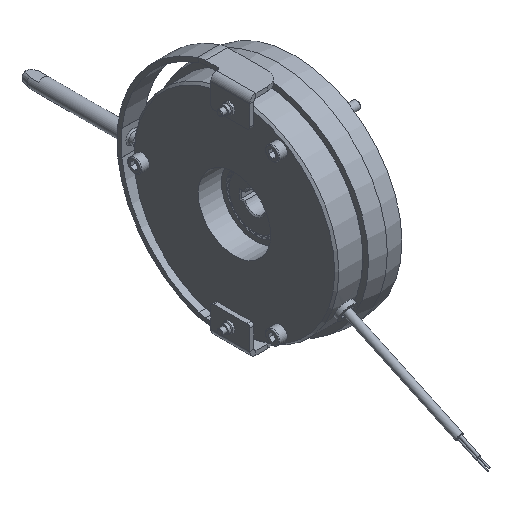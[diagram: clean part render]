
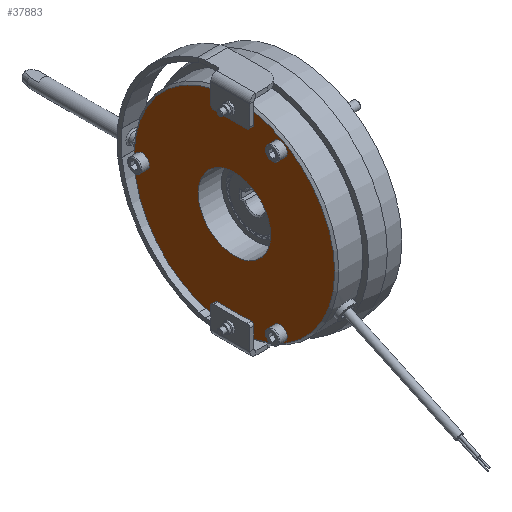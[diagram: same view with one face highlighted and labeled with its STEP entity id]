
A CAD part, isometric view. The second image highlights one B-rep face of the part: STEP entity #37883.
In plain terms, the highlighted planar face has unit normal (-1, 0, 0).
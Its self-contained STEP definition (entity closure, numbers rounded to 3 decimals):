
#443=FACE_BOUND('',#3666,.T.);
#444=FACE_BOUND('',#3667,.T.);
#445=FACE_BOUND('',#3668,.T.);
#446=FACE_BOUND('',#3669,.T.);
#996=PLANE('',#41017);
#1773=FACE_OUTER_BOUND('',#3665,.T.);
#3665=EDGE_LOOP('',(#26762,#26763,#26764,#26765,#26766,#26767,#26768,#26769,
#26770,#26771,#26772,#26773,#26774));
#3666=EDGE_LOOP('',(#26775));
#3667=EDGE_LOOP('',(#26776,#26777));
#3668=EDGE_LOOP('',(#26778,#26779));
#3669=EDGE_LOOP('',(#26780,#26781));
#7145=LINE('',#59140,#9481);
#7149=LINE('',#59157,#9485);
#7156=LINE('',#59174,#9492);
#7176=LINE('',#59241,#9512);
#7182=LINE('',#59253,#9518);
#7196=LINE('',#59289,#9532);
#9481=VECTOR('',#47377,10.);
#9485=VECTOR('',#47395,10.);
#9492=VECTOR('',#47410,10.);
#9512=VECTOR('',#47476,10.);
#9518=VECTOR('',#47492,10.);
#9532=VECTOR('',#47534,10.);
#12092=CIRCLE('',#40898,2.);
#12094=CIRCLE('',#40902,2.);
#12096=CIRCLE('',#40905,2.);
#12098=CIRCLE('',#40909,2.);
#12145=CIRCLE('',#41018,72.);
#12146=CIRCLE('',#41019,72.);
#12147=CIRCLE('',#41020,72.);
#12148=CIRCLE('',#41021,26.);
#12149=CIRCLE('',#41022,5.);
#12150=CIRCLE('',#41023,5.);
#12151=CIRCLE('',#41024,5.);
#12152=CIRCLE('',#41025,5.);
#12153=CIRCLE('',#41026,5.);
#12154=CIRCLE('',#41027,5.);
#14894=VERTEX_POINT('',#59102);
#14895=VERTEX_POINT('',#59103);
#14901=VERTEX_POINT('',#59118);
#14902=VERTEX_POINT('',#59119);
#14907=VERTEX_POINT('',#59130);
#14908=VERTEX_POINT('',#59132);
#14910=VERTEX_POINT('',#59138);
#14912=VERTEX_POINT('',#59144);
#14915=VERTEX_POINT('',#59151);
#14916=VERTEX_POINT('',#59153);
#14920=VERTEX_POINT('',#59165);
#14921=VERTEX_POINT('',#59167);
#14982=VERTEX_POINT('',#59418);
#14983=VERTEX_POINT('',#59422);
#14984=VERTEX_POINT('',#59424);
#14985=VERTEX_POINT('',#59425);
#14986=VERTEX_POINT('',#59428);
#14987=VERTEX_POINT('',#59429);
#14988=VERTEX_POINT('',#59432);
#14989=VERTEX_POINT('',#59433);
#19360=EDGE_CURVE('',#14908,#14907,#12092,.T.);
#19364=EDGE_CURVE('',#14907,#14910,#7145,.T.);
#19367=EDGE_CURVE('',#14910,#14912,#12094,.T.);
#19370=EDGE_CURVE('',#14916,#14915,#12096,.T.);
#19372=EDGE_CURVE('',#14902,#14916,#7149,.T.);
#19377=EDGE_CURVE('',#14921,#14920,#12098,.T.);
#19381=EDGE_CURVE('',#14920,#14901,#7156,.T.);
#19413=EDGE_CURVE('',#14895,#14908,#7176,.T.);
#19421=EDGE_CURVE('',#14912,#14894,#7182,.T.);
#19440=EDGE_CURVE('',#14915,#14921,#7196,.T.);
#19505=EDGE_CURVE('',#14982,#14894,#12145,.T.);
#19506=EDGE_CURVE('',#14902,#14982,#12146,.T.);
#19507=EDGE_CURVE('',#14895,#14901,#12147,.T.);
#19508=EDGE_CURVE('',#14983,#14983,#12148,.T.);
#19509=EDGE_CURVE('',#14984,#14985,#12149,.T.);
#19510=EDGE_CURVE('',#14985,#14984,#12150,.T.);
#19511=EDGE_CURVE('',#14986,#14987,#12151,.T.);
#19512=EDGE_CURVE('',#14987,#14986,#12152,.T.);
#19513=EDGE_CURVE('',#14988,#14989,#12153,.T.);
#19514=EDGE_CURVE('',#14989,#14988,#12154,.T.);
#26762=ORIENTED_EDGE('',*,*,#19413,.T.);
#26763=ORIENTED_EDGE('',*,*,#19360,.T.);
#26764=ORIENTED_EDGE('',*,*,#19364,.T.);
#26765=ORIENTED_EDGE('',*,*,#19367,.T.);
#26766=ORIENTED_EDGE('',*,*,#19421,.T.);
#26767=ORIENTED_EDGE('',*,*,#19505,.F.);
#26768=ORIENTED_EDGE('',*,*,#19506,.F.);
#26769=ORIENTED_EDGE('',*,*,#19372,.T.);
#26770=ORIENTED_EDGE('',*,*,#19370,.T.);
#26771=ORIENTED_EDGE('',*,*,#19440,.T.);
#26772=ORIENTED_EDGE('',*,*,#19377,.T.);
#26773=ORIENTED_EDGE('',*,*,#19381,.T.);
#26774=ORIENTED_EDGE('',*,*,#19507,.F.);
#26775=ORIENTED_EDGE('',*,*,#19508,.T.);
#26776=ORIENTED_EDGE('',*,*,#19509,.T.);
#26777=ORIENTED_EDGE('',*,*,#19510,.T.);
#26778=ORIENTED_EDGE('',*,*,#19511,.T.);
#26779=ORIENTED_EDGE('',*,*,#19512,.T.);
#26780=ORIENTED_EDGE('',*,*,#19513,.T.);
#26781=ORIENTED_EDGE('',*,*,#19514,.T.);
#37883=ADVANCED_FACE('',(#1773,#443,#444,#445,#446),#996,.T.);
#40898=AXIS2_PLACEMENT_3D('',#59133,#47370,#47371);
#40902=AXIS2_PLACEMENT_3D('',#59146,#47383,#47384);
#40905=AXIS2_PLACEMENT_3D('',#59154,#47390,#47391);
#40909=AXIS2_PLACEMENT_3D('',#59168,#47403,#47404);
#41017=AXIS2_PLACEMENT_3D('',#59417,#47700,#47701);
#41018=AXIS2_PLACEMENT_3D('',#59419,#47702,#47703);
#41019=AXIS2_PLACEMENT_3D('',#59420,#47704,#47705);
#41020=AXIS2_PLACEMENT_3D('',#59421,#47706,#47707);
#41021=AXIS2_PLACEMENT_3D('',#59423,#47708,#47709);
#41022=AXIS2_PLACEMENT_3D('',#59426,#47710,#47711);
#41023=AXIS2_PLACEMENT_3D('',#59427,#47712,#47713);
#41024=AXIS2_PLACEMENT_3D('',#59430,#47714,#47715);
#41025=AXIS2_PLACEMENT_3D('',#59431,#47716,#47717);
#41026=AXIS2_PLACEMENT_3D('',#59434,#47718,#47719);
#41027=AXIS2_PLACEMENT_3D('',#59435,#47720,#47721);
#47370=DIRECTION('center_axis',(1.,0.,0.));
#47371=DIRECTION('ref_axis',(0.,-0.707,-0.707));
#47377=DIRECTION('',(0.,1.,0.));
#47383=DIRECTION('center_axis',(1.,0.,0.));
#47384=DIRECTION('ref_axis',(0.,0.707,-0.707));
#47390=DIRECTION('center_axis',(1.,0.,0.));
#47391=DIRECTION('ref_axis',(0.,0.707,0.707));
#47395=DIRECTION('',(0.,0.,1.));
#47403=DIRECTION('center_axis',(1.,0.,0.));
#47404=DIRECTION('ref_axis',(0.,-0.707,0.707));
#47410=DIRECTION('',(0.,0.,-1.));
#47476=DIRECTION('',(0.,0.,-1.));
#47492=DIRECTION('',(0.,0.,1.));
#47534=DIRECTION('',(0.,-1.,0.));
#47700=DIRECTION('center_axis',(-1.,0.,0.));
#47701=DIRECTION('ref_axis',(0.,0.,
1.));
#47702=DIRECTION('center_axis',(1.,0.,0.));
#47703=DIRECTION('ref_axis',(0.,-1.,0.));
#47704=DIRECTION('center_axis',(1.,0.,0.));
#47705=DIRECTION('ref_axis',(0.,-1.,0.));
#47706=DIRECTION('center_axis',(1.,0.,0.));
#47707=DIRECTION('ref_axis',(0.,-1.,0.));
#47708=DIRECTION('center_axis',(1.,0.,0.));
#47709=DIRECTION('ref_axis',(0.,0.,
1.));
#47710=DIRECTION('center_axis',(1.,0.,0.));
#47711=DIRECTION('ref_axis',(0.,1.,0.));
#47712=DIRECTION('center_axis',(1.,0.,0.));
#47713=DIRECTION('ref_axis',(0.,1.,0.));
#47714=DIRECTION('center_axis',(1.,0.,0.));
#47715=DIRECTION('ref_axis',(0.,1.,0.));
#47716=DIRECTION('center_axis',(1.,0.,0.));
#47717=DIRECTION('ref_axis',(0.,1.,0.));
#47718=DIRECTION('center_axis',(1.,0.,0.));
#47719=DIRECTION('ref_axis',(0.,1.,-0.013));
#47720=DIRECTION('center_axis',(1.,0.,0.));
#47721=DIRECTION('ref_axis',(0.,1.,-0.013));
#59102=CARTESIAN_POINT('',(-23.5,14.,70.626));
#59103=CARTESIAN_POINT('',(-23.5,-14.,70.626));
#59118=CARTESIAN_POINT('',(-23.5,-14.,-70.626));
#59119=CARTESIAN_POINT('',(-23.5,14.,-70.626));
#59130=CARTESIAN_POINT('',(-23.5,-12.,60.5));
#59132=CARTESIAN_POINT('',(-23.5,-14.,62.5));
#59133=CARTESIAN_POINT('Origin',(-23.5,-12.,62.5));
#59138=CARTESIAN_POINT('',(-23.5,12.,60.5));
#59140=CARTESIAN_POINT('',(-23.5,25.375,60.5));
#59144=CARTESIAN_POINT('',(-23.5,14.,62.5));
#59146=CARTESIAN_POINT('Origin',(-23.5,12.,62.5));
#59151=CARTESIAN_POINT('',(-23.5,12.,-60.5));
#59153=CARTESIAN_POINT('',(-23.5,14.,-62.5));
#59154=CARTESIAN_POINT('Origin',(-23.5,12.,-62.5));
#59157=CARTESIAN_POINT('',(-23.5,14.,-38.5));
#59165=CARTESIAN_POINT('',(-23.5,-14.,-62.5));
#59167=CARTESIAN_POINT('',(-23.5,-12.,-60.5));
#59168=CARTESIAN_POINT('Origin',(-23.5,-12.,-62.5));
#59174=CARTESIAN_POINT('',(-23.5,-14.,-38.5));
#59241=CARTESIAN_POINT('',(-23.5,-14.,38.5));
#59253=CARTESIAN_POINT('',(-23.5,14.,38.5));
#59289=CARTESIAN_POINT('',(-23.5,25.375,-60.5));
#59417=CARTESIAN_POINT('Origin',(-23.5,36.75,0.));
#59418=CARTESIAN_POINT('',(-23.5,72.,0.));
#59419=CARTESIAN_POINT('Origin',(-23.5,0.,0.));
#59420=CARTESIAN_POINT('Origin',(-23.5,0.,0.));
#59421=CARTESIAN_POINT('Origin',(-23.5,0.,0.));
#59422=CARTESIAN_POINT('',(-23.5,0.,-26.));
#59423=CARTESIAN_POINT('Origin',(-23.5,0.,0.));
#59424=CARTESIAN_POINT('',(-23.5,-28.,-57.158));
#59425=CARTESIAN_POINT('',(-23.5,-38.,-57.158));
#59426=CARTESIAN_POINT('Origin',(-23.5,-33.,-57.158));
#59427=CARTESIAN_POINT('Origin',(-23.5,-33.,-57.158));
#59428=CARTESIAN_POINT('',(-23.5,-28.,57.158));
#59429=CARTESIAN_POINT('',(-23.5,-38.,57.158));
#59430=CARTESIAN_POINT('Origin',(-23.5,-33.,57.158));
#59431=CARTESIAN_POINT('Origin',(-23.5,-33.,57.158));
#59432=CARTESIAN_POINT('',(-23.5,71.,-0.065));
#59433=CARTESIAN_POINT('',(-23.5,61.,0.065));
#59434=CARTESIAN_POINT('Origin',(-23.5,66.,0.));
#59435=CARTESIAN_POINT('Origin',(-23.5,66.,0.));
